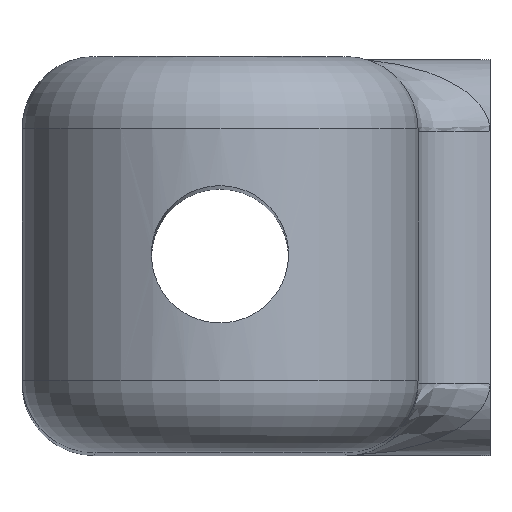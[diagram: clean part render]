
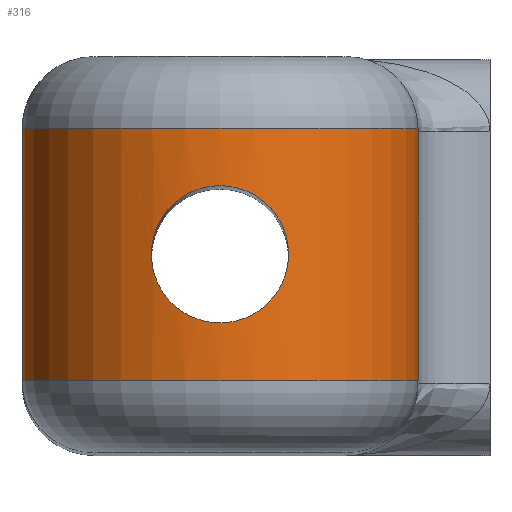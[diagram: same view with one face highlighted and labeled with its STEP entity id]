
A CAD part, top view. The second image highlights one B-rep face of the part: STEP entity #316.
In plain terms, the highlighted cylindrical face has radius 11 mm (diameter 22 mm), a partial arc.
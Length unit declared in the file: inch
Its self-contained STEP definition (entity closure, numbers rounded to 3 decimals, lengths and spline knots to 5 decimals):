
#31=FACE_BOUND('',#57,.T.);
#34=FACE_OUTER_BOUND('',#56,.T.);
#56=EDGE_LOOP('',(#217,#218,#219,#220));
#57=EDGE_LOOP('',(#221));
#79=B_SPLINE_CURVE_WITH_KNOTS('',3,(#514,#515,#516,#517,#518,#519,#520,
#521,#522,#523,#524,#525,#526,#527,#528,#529,#530,#531,#532,#533,#534,#535,
#536,#537,#538,#539,#540,#541,#542,#543,#544,#545,#546,#547),
 .UNSPECIFIED.,.T.,.F.,(4,2,2,2,2,2,2,2,2,2,2,2,2,2,2,2,4),(0.,0.14486,
0.28973,0.43451,0.5793,0.72409,0.86887,
1.01374,1.1586,1.30347,1.44833,1.59312,
1.7379,1.88269,2.02747,2.17234,2.3172),
 .UNSPECIFIED.);
#81=LINE('',#553,#101);
#82=LINE('',#556,#102);
#101=VECTOR('',#407,0.55118);
#102=VECTOR('',#410,0.55118);
#121=CIRCLE('',#354,0.43307);
#122=CIRCLE('',#355,0.43307);
#142=VERTEX_POINT('',#512);
#143=VERTEX_POINT('',#549);
#144=VERTEX_POINT('',#550);
#145=VERTEX_POINT('',#552);
#146=VERTEX_POINT('',#554);
#169=EDGE_CURVE('',#142,#142,#79,.T.);
#170=EDGE_CURVE('',#143,#144,#121,.T.);
#171=EDGE_CURVE('',#143,#145,#81,.T.);
#172=EDGE_CURVE('',#146,#145,#122,.T.);
#173=EDGE_CURVE('',#144,#146,#82,.T.);
#217=ORIENTED_EDGE('',*,*,#170,.F.);
#218=ORIENTED_EDGE('',*,*,#171,.T.);
#219=ORIENTED_EDGE('',*,*,#172,.F.);
#220=ORIENTED_EDGE('',*,*,#173,.F.);
#221=ORIENTED_EDGE('',*,*,#169,.T.);
#306=CYLINDRICAL_SURFACE('',#353,0.43307);
#316=ADVANCED_FACE('',(#34,#31),#306,.T.);
#353=AXIS2_PLACEMENT_3D('',#548,#403,#404);
#354=AXIS2_PLACEMENT_3D('',#551,#405,#406);
#355=AXIS2_PLACEMENT_3D('',#555,#408,#409);
#403=DIRECTION('center_axis',(0.,1.,0.));
#404=DIRECTION('ref_axis',(-1.,0.,0.));
#405=DIRECTION('center_axis',(0.,-1.,0.));
#406=DIRECTION('ref_axis',(0.,0.,1.));
#407=DIRECTION('',(0.,1.,0.));
#408=DIRECTION('center_axis',(0.,1.,0.));
#409=DIRECTION('ref_axis',(0.,0.,1.));
#410=DIRECTION('',(0.,1.,0.));
#512=CARTESIAN_POINT('',(0.15,0.,4.3039));
#514=CARTESIAN_POINT('Ctrl Pts',(0.15,0.,4.3039));
#515=CARTESIAN_POINT('Ctrl Pts',(0.15,-0.01901,4.3039));
#516=CARTESIAN_POINT('Ctrl Pts',(0.14617,-0.03917,
4.30538));
#517=CARTESIAN_POINT('Ctrl Pts',(0.13081,-0.07607,
4.31056));
#518=CARTESIAN_POINT('Ctrl Pts',(0.1193,-0.09283,
4.31418));
#519=CARTESIAN_POINT('Ctrl Pts',(0.09284,-0.11929,4.32086));
#520=CARTESIAN_POINT('Ctrl Pts',(0.07608,-0.13081,4.32438));
#521=CARTESIAN_POINT('Ctrl Pts',(0.03916,-0.14617,
4.32934));
#522=CARTESIAN_POINT('Ctrl Pts',(0.019,-0.15,4.33071));
#523=CARTESIAN_POINT('Ctrl Pts',(-0.019,-0.15,4.33071));
#524=CARTESIAN_POINT('Ctrl Pts',(-0.03916,-0.14617,
4.32934));
#525=CARTESIAN_POINT('Ctrl Pts',(-0.07608,-0.13081,4.32438));
#526=CARTESIAN_POINT('Ctrl Pts',(-0.09284,-0.11929,
4.32086));
#527=CARTESIAN_POINT('Ctrl Pts',(-0.1193,-0.09283,
4.31418));
#528=CARTESIAN_POINT('Ctrl Pts',(-0.13081,-0.07607,
4.31056));
#529=CARTESIAN_POINT('Ctrl Pts',(-0.14617,-0.03917,
4.30538));
#530=CARTESIAN_POINT('Ctrl Pts',(-0.15,-0.01901,4.3039));
#531=CARTESIAN_POINT('Ctrl Pts',(-0.15,0.01901,4.3039));
#532=CARTESIAN_POINT('Ctrl Pts',(-0.14617,0.03917,
4.30538));
#533=CARTESIAN_POINT('Ctrl Pts',(-0.13081,0.07607,
4.31056));
#534=CARTESIAN_POINT('Ctrl Pts',(-0.1193,0.09283,
4.31418));
#535=CARTESIAN_POINT('Ctrl Pts',(-0.09284,0.11929,4.32086));
#536=CARTESIAN_POINT('Ctrl Pts',(-0.07608,0.13081,4.32438));
#537=CARTESIAN_POINT('Ctrl Pts',(-0.03916,0.14617,
4.32934));
#538=CARTESIAN_POINT('Ctrl Pts',(-0.019,0.15,4.33071));
#539=CARTESIAN_POINT('Ctrl Pts',(0.019,0.15,4.33071));
#540=CARTESIAN_POINT('Ctrl Pts',(0.03916,0.14617,4.32934));
#541=CARTESIAN_POINT('Ctrl Pts',(0.07608,0.13081,4.32438));
#542=CARTESIAN_POINT('Ctrl Pts',(0.09284,0.11929,4.32086));
#543=CARTESIAN_POINT('Ctrl Pts',(0.1193,0.09283,4.31418));
#544=CARTESIAN_POINT('Ctrl Pts',(0.13081,0.07607,4.31056));
#545=CARTESIAN_POINT('Ctrl Pts',(0.14617,0.03917,4.30538));
#546=CARTESIAN_POINT('Ctrl Pts',(0.15,0.01901,4.3039));
#547=CARTESIAN_POINT('Ctrl Pts',(0.15,0.,4.3039));
#548=CARTESIAN_POINT('Origin',(0.,0.,3.89764));
#549=CARTESIAN_POINT('',(0.43307,-0.27559,3.89764));
#550=CARTESIAN_POINT('',(-0.43307,-0.27559,3.89764));
#551=CARTESIAN_POINT('Origin',(0.,-0.27559,
3.89764));
#552=CARTESIAN_POINT('',(0.43307,0.27559,3.89764));
#553=CARTESIAN_POINT('',(0.43307,-0.27559,3.89764));
#554=CARTESIAN_POINT('',(-0.43307,0.27559,3.89764));
#555=CARTESIAN_POINT('Origin',(0.,0.27559,
3.89764));
#556=CARTESIAN_POINT('',(-0.43307,-0.27559,3.89764));
